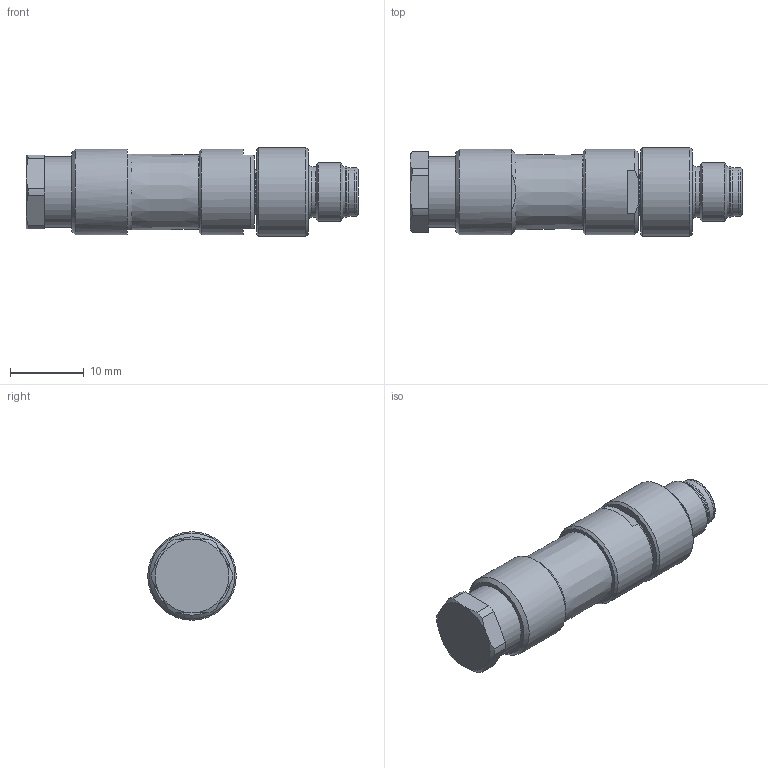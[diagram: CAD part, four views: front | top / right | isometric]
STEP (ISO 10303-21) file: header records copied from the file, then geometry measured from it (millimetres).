
FILE_DESCRIPTION(/* description */ (''),/* implementation_level */ '2;1');
FILE_NAME(/* name */ '99_3383_00_04_001_00.stp',/* time_stamp */ '2016-04-08T11:26:40+02:00',/* author */ (''),/* organization */ (''),/* preprocessor_version */ 'ST-DEVELOPER v14',/* originating_system */ 'SIEMENS PLM Software NX 8.0',/* authorisation */ '');
FILE_SCHEMA (('AUTOMOTIVE_DESIGN { 1 0 10303 214 3 1 1 1 }'));
Length unit declared in the file: millimetre
Products named in the file (1): cerl1AA0F7EDb4pk
Bounding box: 45 x 12 x 12 mm (x, y, z)
Volume: 3822.5 mm3; surface area: 2033.9 mm2
Topology: 1 solids, 1 shells, 78 faces, 180 edges, 109 vertices
Faces by surface type: plane 27, cylinder 22, cone 20, torus 5, sphere 4
Full cylindrical faces by diameter (mm): 1 x4, 5.7 x1, 6.6 x1, 6.8 x1, 6.85 x2, 8 x1, 9.5 x1, 10 x1, 11.6 x2, 12 x1
Entity records: 1910 total; most frequent: CARTESIAN_POINT 371, DIRECTION 332, ORIENTED_EDGE 252, AXIS2_PLACEMENT_3D 150, EDGE_CURVE 126, EDGE_LOOP 119, VERTEX_POINT 93, FACE_BOUND 81
